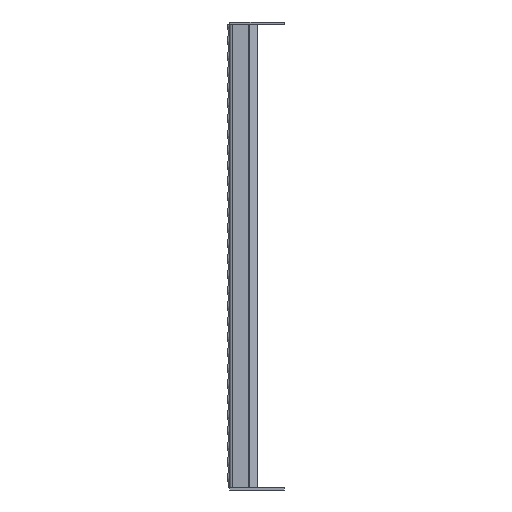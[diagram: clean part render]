
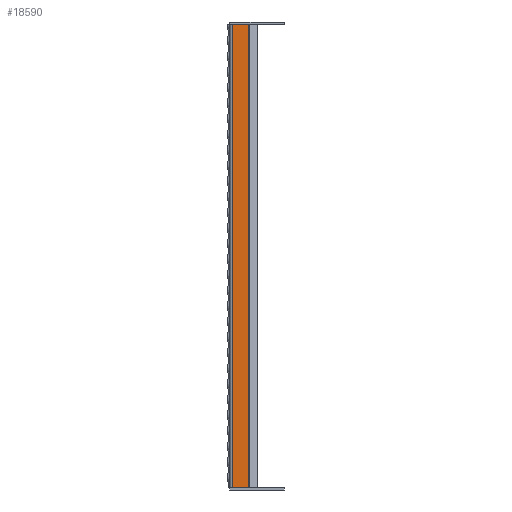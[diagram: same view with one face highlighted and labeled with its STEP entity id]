
A CAD part, left-side view. The second image highlights one B-rep face of the part: STEP entity #18590.
In plain terms, the highlighted planar face has unit normal (-1, 0, 0).
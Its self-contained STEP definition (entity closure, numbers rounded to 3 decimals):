
#1853=FACE_OUTER_BOUND('',#3066,.T.);
#3066=EDGE_LOOP('',(#14823,#14824,#14825,#14826));
#4375=LINE('',#32764,#6485);
#4386=LINE('',#32794,#6496);
#4396=LINE('',#32817,#6506);
#4403=LINE('',#32832,#6513);
#6485=VECTOR('',#23452,10.);
#6496=VECTOR('',#23477,10.);
#6506=VECTOR('',#23499,10.);
#6513=VECTOR('',#23518,10.);
#8628=VERTEX_POINT('',#32761);
#8629=VERTEX_POINT('',#32763);
#8641=VERTEX_POINT('',#32793);
#8648=VERTEX_POINT('',#32816);
#10805=EDGE_CURVE('',#8629,#8628,#4375,.T.);
#10820=EDGE_CURVE('',#8628,#8641,#4386,.T.);
#10832=EDGE_CURVE('',#8648,#8629,#4396,.T.);
#10840=EDGE_CURVE('',#8641,#8648,#4403,.T.);
#14823=ORIENTED_EDGE('',*,*,#10820,.T.);
#14824=ORIENTED_EDGE('',*,*,#10840,.T.);
#14825=ORIENTED_EDGE('',*,*,#10832,.T.);
#14826=ORIENTED_EDGE('',*,*,#10805,.T.);
#17479=PLANE('',#20153);
#18590=ADVANCED_FACE('',(#1853),#17479,.T.);
#20153=AXIS2_PLACEMENT_3D('',#32833,#23519,#23520);
#23452=DIRECTION('',(0.,1.,0.));
#23477=DIRECTION('',(0.,0.,-1.));
#23499=DIRECTION('',(0.,0.,1.));
#23518=DIRECTION('',(0.,-1.,0.));
#23519=DIRECTION('center_axis',(-1.,0.,0.));
#23520=DIRECTION('ref_axis',(0.,0.,1.));
#32761=CARTESIAN_POINT('',(0.,-3.25,594.));
#32763=CARTESIAN_POINT('',(0.,-24.427,594.));
#32764=CARTESIAN_POINT('',(0.,0.,594.));
#32793=CARTESIAN_POINT('',(0.,-3.25,0.));
#32794=CARTESIAN_POINT('',(0.,-3.25,0.));
#32816=CARTESIAN_POINT('',(0.,-24.427,0.));
#32817=CARTESIAN_POINT('',(0.,-24.427,148.5));
#32832=CARTESIAN_POINT('',(0.,0.,0.));
#32833=CARTESIAN_POINT('Origin',(0.,-25.,0.));
